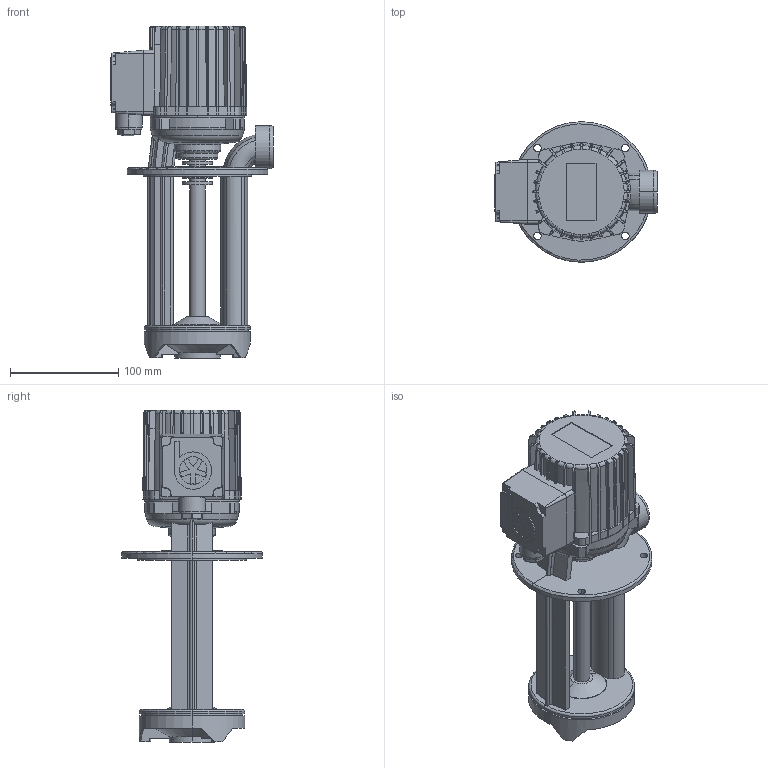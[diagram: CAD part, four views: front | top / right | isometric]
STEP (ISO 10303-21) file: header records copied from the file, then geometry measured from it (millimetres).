
FILE_DESCRIPTION(('no description'),'unknown implementation level');
FILE_NAME('TB40_170_18.stp',' ',('K. H. Brinkmann GmbH & Co. KG'),('CADClick - KiM GmbH - www.kimweb.de'),'unknown preprocess','ACIS','unknown authorization');
FILE_SCHEMA(('automotive_design'));
Length unit declared in the file: millimetre
Products named in the file (3): 1; 2; 3
Bounding box: 150 x 130 x 307 mm (x, y, z)
Volume: 1290379.5 mm3; surface area: 192359.6 mm2
Topology: 3 solids, 3 shells, 602 faces, 1605 edges, 1027 vertices
Faces by surface type: plane 287, cylinder 153, torus 87, cone 75
Entity records: 41009 total; most frequent: CARTESIAN_POINT 8203, STYLED_ITEM 3237, PRESENTATION_STYLE_ASSIGNMENT 3237, COLOUR_RGB 3237, ORIENTED_EDGE 3210, DIRECTION 3052, EDGE_CURVE 1605, CURVE_STYLE 1605
